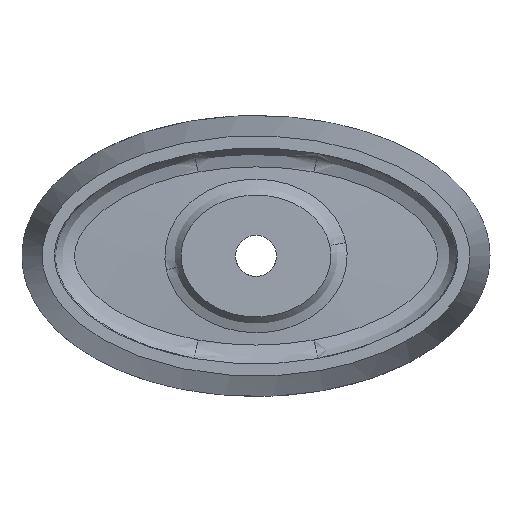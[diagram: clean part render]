
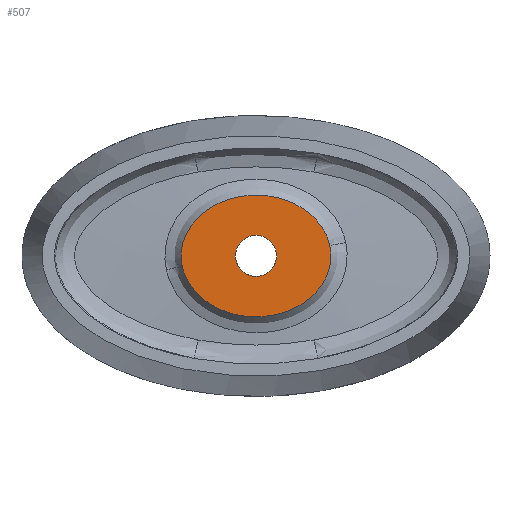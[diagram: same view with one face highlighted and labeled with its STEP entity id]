
A CAD part, front view. The second image highlights one B-rep face of the part: STEP entity #507.
In plain terms, the highlighted planar face has unit normal (0, -1, 0).
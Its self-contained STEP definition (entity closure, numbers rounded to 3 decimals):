
#16=FACE_BOUND('',#109,.T.);
#19=PLANE('',#558);
#33=CIRCLE('',#539,22.);
#34=CIRCLE('',#540,22.);
#79=FACE_OUTER_BOUND('',#108,.T.);
#108=EDGE_LOOP('',(#425,#426));
#109=EDGE_LOOP('',(#427,#428));
#157=B_SPLINE_CURVE_WITH_KNOTS('',3,(#5062,#5063,#5064,#5065,#5066,#5067,
#5068,#5069,#5070,#5071,#5072,#5073,#5074,#5075,#5076,#5077,#5078,#5079,
#5080,#5081),.UNSPECIFIED.,.F.,.F.,(4,2,2,2,2,2,2,2,2,4),(0.,1.233,
2.466,4.426,6.287,8.244,10.403,
12.857,14.858,17.387),.UNSPECIFIED.);
#180=B_SPLINE_CURVE_WITH_KNOTS('',3,(#9154,#9155,#9156,#9157,#9158,#9159,
#9160,#9161,#9162,#9163,#9164,#9165,#9166,#9167,#9168,#9169,#9170,#9171,
#9172,#9173),.UNSPECIFIED.,.F.,.F.,(4,2,2,2,2,2,2,2,2,4),(0.,1.217,
2.438,4.392,6.292,8.362,10.626,
13.176,15.563,18.217),.UNSPECIFIED.);
#212=VERTEX_POINT('',#5059);
#213=VERTEX_POINT('',#5061);
#215=VERTEX_POINT('',#5173);
#216=VERTEX_POINT('',#5174);
#269=EDGE_CURVE('',#212,#213,#157,.T.);
#272=EDGE_CURVE('',#215,#216,#33,.T.);
#273=EDGE_CURVE('',#216,#215,#34,.T.);
#311=EDGE_CURVE('',#213,#212,#180,.T.);
#425=ORIENTED_EDGE('',*,*,#311,.F.);
#426=ORIENTED_EDGE('',*,*,#269,.F.);
#427=ORIENTED_EDGE('',*,*,#272,.T.);
#428=ORIENTED_EDGE('',*,*,#273,.T.);
#507=ADVANCED_FACE('',(#79,#16),#19,.F.);
#539=AXIS2_PLACEMENT_3D('',#5175,#586,#587);
#540=AXIS2_PLACEMENT_3D('',#5176,#588,#589);
#558=AXIS2_PLACEMENT_3D('',#9153,#628,#629);
#586=DIRECTION('center_axis',(0.,1.,0.));
#587=DIRECTION('ref_axis',(1.,0.,0.));
#588=DIRECTION('center_axis',(0.,1.,0.));
#589=DIRECTION('ref_axis',(1.,0.,0.));
#628=DIRECTION('center_axis',(0.,1.,0.));
#629=DIRECTION('ref_axis',(0.,0.,1.));
#5059=CARTESIAN_POINT('',(-78.833,678.,-11.062));
#5061=CARTESIAN_POINT('',(78.884,678.,10.818));
#5062=CARTESIAN_POINT('Ctrl Pts',(-78.833,678.,-11.062));
#5063=CARTESIAN_POINT('Ctrl Pts',(-79.687,678.,-7.042));
#5064=CARTESIAN_POINT('Ctrl Pts',(-80.077,678.,-2.959));
#5065=CARTESIAN_POINT('Ctrl Pts',(-79.898,678.,5.248));
#5066=CARTESIAN_POINT('Ctrl Pts',(-79.332,678.,9.319));
#5067=CARTESIAN_POINT('Ctrl Pts',(-76.68,678.,19.626));
#5068=CARTESIAN_POINT('Ctrl Pts',(-73.63,678.,26.774));
#5069=CARTESIAN_POINT('Ctrl Pts',(-63.065,678.,40.776));
#5070=CARTESIAN_POINT('Ctrl Pts',(-56.08,678.,47.244));
#5071=CARTESIAN_POINT('Ctrl Pts',(-37.405,678.,58.249));
#5072=CARTESIAN_POINT('Ctrl Pts',(-26.097,678.,62.309));
#5073=CARTESIAN_POINT('Ctrl Pts',(0.367,678.,65.996));
#5074=CARTESIAN_POINT('Ctrl Pts',(13.334,678.,64.769));
#5075=CARTESIAN_POINT('Ctrl Pts',(36.861,678.,58.672));
#5076=CARTESIAN_POINT('Ctrl Pts',(46.912,678.,53.311));
#5077=CARTESIAN_POINT('Ctrl Pts',(60.642,678.,42.946));
#5078=CARTESIAN_POINT('Ctrl Pts',(66.044,678.,37.385));
#5079=CARTESIAN_POINT('Ctrl Pts',(75.712,678.,22.923));
#5080=CARTESIAN_POINT('Ctrl Pts',(77.872,678.,15.692));
#5081=CARTESIAN_POINT('Ctrl Pts',(78.884,678.,10.818));
#5173=CARTESIAN_POINT('',(22.,678.,0.));
#5174=CARTESIAN_POINT('',(-22.,678.,0.));
#5175=CARTESIAN_POINT('Origin',(0.,678.,0.));
#5176=CARTESIAN_POINT('Origin',(0.,678.,0.));
#9153=CARTESIAN_POINT('Origin',(0.,678.,0.));
#9154=CARTESIAN_POINT('Ctrl Pts',(78.884,678.,10.818));
#9155=CARTESIAN_POINT('Ctrl Pts',(79.709,678.,6.847));
#9156=CARTESIAN_POINT('Ctrl Pts',(80.081,678.,2.812));
#9157=CARTESIAN_POINT('Ctrl Pts',(79.889,678.,-5.314));
#9158=CARTESIAN_POINT('Ctrl Pts',(79.323,678.,-9.354));
#9159=CARTESIAN_POINT('Ctrl Pts',(76.68,678.,-19.622));
#9160=CARTESIAN_POINT('Ctrl Pts',(73.633,678.,-26.77));
#9161=CARTESIAN_POINT('Ctrl Pts',(62.938,678.,-40.944));
#9162=CARTESIAN_POINT('Ctrl Pts',(55.857,678.,-47.386));
#9163=CARTESIAN_POINT('Ctrl Pts',(37.184,678.,-58.368));
#9164=CARTESIAN_POINT('Ctrl Pts',(25.806,678.,-62.36));
#9165=CARTESIAN_POINT('Ctrl Pts',(-0.11,678.,-65.948));
#9166=CARTESIAN_POINT('Ctrl Pts',(-13.019,678.,-64.841));
#9167=CARTESIAN_POINT('Ctrl Pts',(-36.963,678.,-58.656));
#9168=CARTESIAN_POINT('Ctrl Pts',(-46.998,678.,-53.234));
#9169=CARTESIAN_POINT('Ctrl Pts',(-61.342,678.,-42.43));
#9170=CARTESIAN_POINT('Ctrl Pts',(-66.489,678.,-36.681));
#9171=CARTESIAN_POINT('Ctrl Pts',(-74.334,678.,-25.025));
#9172=CARTESIAN_POINT('Ctrl Pts',(-77.302,678.,-18.268));
#9173=CARTESIAN_POINT('Ctrl Pts',(-78.833,678.,-11.062));
